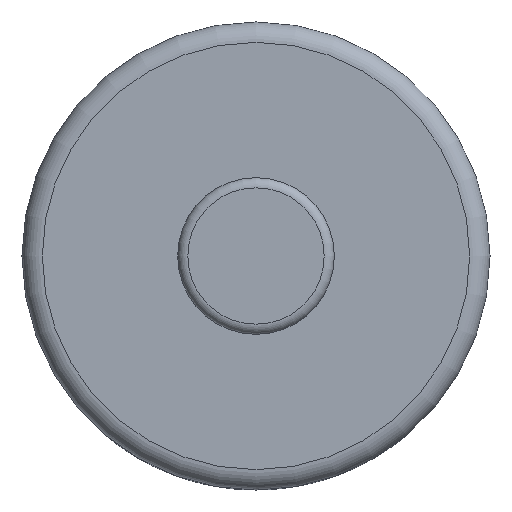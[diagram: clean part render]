
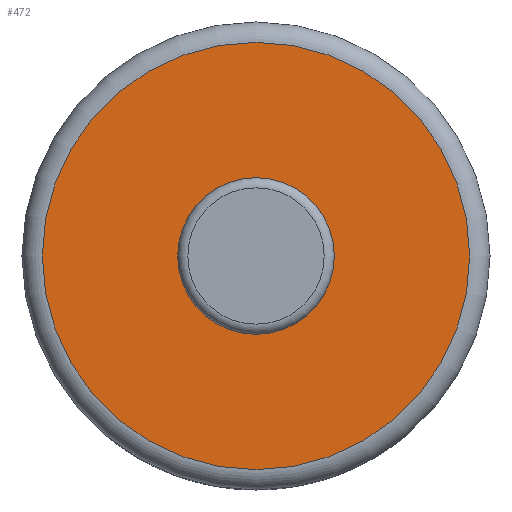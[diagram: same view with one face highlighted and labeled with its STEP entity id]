
A CAD part, front view. The second image highlights one B-rep face of the part: STEP entity #472.
In plain terms, the highlighted planar face has unit normal (0, -1, 0).
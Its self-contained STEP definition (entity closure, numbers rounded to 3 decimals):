
#19=FACE_BOUND('',#78,.T.);
#22=PLANE('',#530);
#47=FACE_OUTER_BOUND('',#77,.T.);
#77=EDGE_LOOP('',(#367));
#78=EDGE_LOOP('',(#368));
#99=CIRCLE('',#520,7.7);
#102=CIRCLE('',#525,21.);
#213=VERTEX_POINT('',#1504);
#216=VERTEX_POINT('',#1512);
#270=EDGE_CURVE('',#213,#213,#99,.T.);
#273=EDGE_CURVE('',#216,#216,#102,.T.);
#367=ORIENTED_EDGE('',*,*,#273,.F.);
#368=ORIENTED_EDGE('',*,*,#270,.T.);
#472=ADVANCED_FACE('',(#47,#19),#22,.F.);
#520=AXIS2_PLACEMENT_3D('',#1506,#603,#604);
#525=AXIS2_PLACEMENT_3D('',#1514,#613,#614);
#530=AXIS2_PLACEMENT_3D('',#1559,#624,#625);
#603=DIRECTION('center_axis',(0.,1.,0.));
#604=DIRECTION('ref_axis',(1.,0.,0.));
#613=DIRECTION('center_axis',(0.,1.,0.));
#614=DIRECTION('ref_axis',(1.,0.,0.));
#624=DIRECTION('center_axis',(0.,1.,0.));
#625=DIRECTION('ref_axis',(1.,0.,0.));
#1504=CARTESIAN_POINT('',(-7.7,0.,0.));
#1506=CARTESIAN_POINT('Origin',(0.,0.,0.));
#1512=CARTESIAN_POINT('',(0.,0.,-21.));
#1514=CARTESIAN_POINT('Origin',(0.,0.,0.));
#1559=CARTESIAN_POINT('Origin',(0.,0.,0.));
